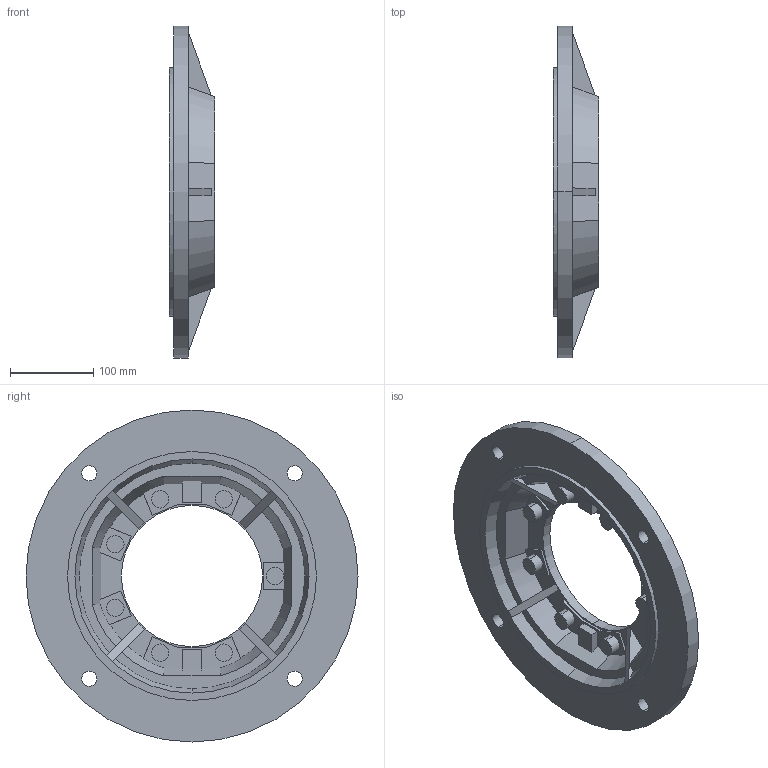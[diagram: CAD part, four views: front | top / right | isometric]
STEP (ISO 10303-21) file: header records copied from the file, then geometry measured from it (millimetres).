
FILE_DESCRIPTION(/* description */ (''),/* implementation_level */ '2;1');
FILE_NAME(/* name */ '2_FLANGIA (CAMPANA) LATERALE FB H122',/* time_stamp */ '2025-10-31T14:27:52+01:00',/* author */ (''),/* organization */ (''),/* preprocessor_version */ 'ST-DEVELOPER v19.2',/* originating_system */ 'Rhino 8.23',/* authorisation */ '');
FILE_SCHEMA (('CONFIG_CONTROL_DESIGN'));
Length unit declared in the file: millimetre
Products named in the file (2): Document; FU122FB-24
Bounding box: 54.5 x 400 x 400 mm (x, y, z)
Volume: 1872199.8 mm3; surface area: 301628.7 mm2
Topology: 1 solids, 1 shells, 123 faces, 342 edges, 228 vertices
Faces by surface type: plane 81, cylinder 28, bspline 14
Entity records: 5314 total; most frequent: CARTESIAN_POINT 1451, ORIENTED_EDGE 684, EDGE_CURVE 342, DIRECTION 297, B_SPLINE_CURVE_WITH_KNOTS 244, VERTEX_POINT 228, AXIS2_PLACEMENT_3D 203, EDGE_LOOP 148
